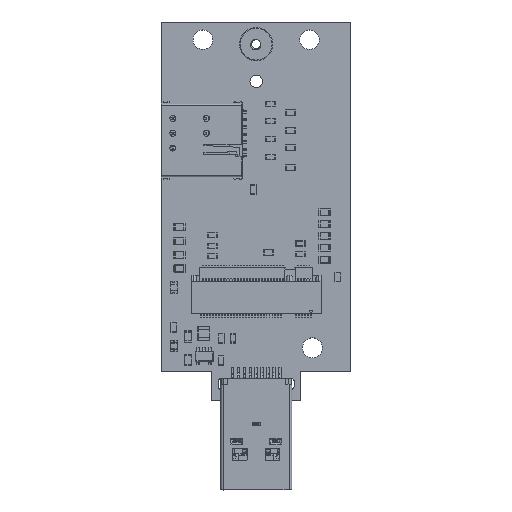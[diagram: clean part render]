
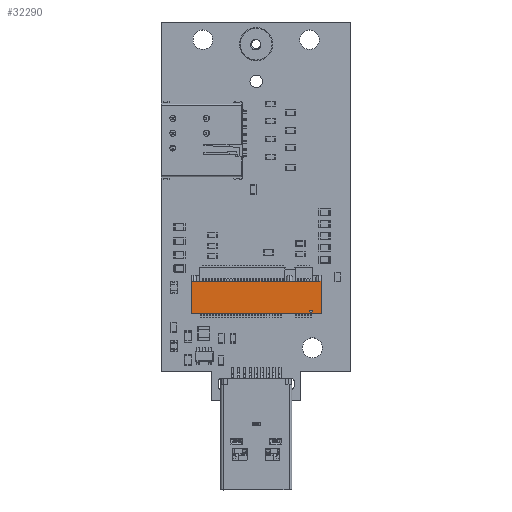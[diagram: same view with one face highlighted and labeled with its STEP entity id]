
A CAD part, top view. The second image highlights one B-rep face of the part: STEP entity #32290.
In plain terms, the highlighted planar face has unit normal (0, 0, 1).
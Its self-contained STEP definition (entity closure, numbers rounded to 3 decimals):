
#2663 = VERTEX_POINT('',#2664);
#2664 = CARTESIAN_POINT('',(26.975,20.2,
    4.085));
#2752 = VERTEX_POINT('',#2753);
#2753 = CARTESIAN_POINT('',(26.975,14.7,
    4.085));
#2759 = EDGE_CURVE('',#2752,#2663,#2760,.T.);
#2760 = LINE('',#2761,#2762);
#2761 = CARTESIAN_POINT('',(26.975,14.7,
    4.085));
#2762 = VECTOR('',#2763,1.);
#2763 = DIRECTION('',(0.,1.,0.));
#2773 = EDGE_CURVE('',#2663,#2774,#2776,.T.);
#2774 = VERTEX_POINT('',#2775);
#2775 = CARTESIAN_POINT('',(26.6,20.2,
    4.085));
#2776 = LINE('',#2777,#2778);
#2777 = CARTESIAN_POINT('',(26.975,20.2,
    4.085));
#2778 = VECTOR('',#2779,1.);
#2779 = DIRECTION('',(-1.,0.,0.));
#2840 = VERTEX_POINT('',#2841);
#2841 = CARTESIAN_POINT('',(21.7,20.2,
    4.085));
#2905 = EDGE_CURVE('',#2774,#2840,#2906,.T.);
#2906 = LINE('',#2907,#2908);
#2907 = CARTESIAN_POINT('',(26.6,20.2,
    4.085));
#2908 = VECTOR('',#2909,1.);
#2909 = DIRECTION('',(-1.,0.,0.));
#2938 = VERTEX_POINT('',#2939);
#2939 = CARTESIAN_POINT('',(21.6,20.2,
    4.085));
#2946 = EDGE_CURVE('',#2938,#2947,#2949,.T.);
#2947 = VERTEX_POINT('',#2948);
#2948 = CARTESIAN_POINT('',(5.45,20.2,4.085
    ));
#2949 = LINE('',#2950,#2951);
#2950 = CARTESIAN_POINT('',(21.6,20.2,
    4.085));
#2951 = VECTOR('',#2952,1.);
#2952 = DIRECTION('',(-1.,0.,0.));
#3055 = EDGE_CURVE('',#2840,#2938,#3056,.T.);
#3056 = LINE('',#3057,#3058);
#3057 = CARTESIAN_POINT('',(21.7,20.2,
    4.085));
#3058 = VECTOR('',#3059,1.);
#3059 = DIRECTION('',(-1.,0.,0.));
#15736 = VERTEX_POINT('',#15737);
#15737 = CARTESIAN_POINT('',(5.075,14.7,
    4.085));
#15743 = EDGE_CURVE('',#2752,#15736,#15744,.T.);
#15744 = LINE('',#15745,#15746);
#15745 = CARTESIAN_POINT('',(26.975,14.7,
    4.085));
#15746 = VECTOR('',#15747,1.);
#15747 = DIRECTION('',(-1.,0.,0.));
#21900 = VERTEX_POINT('',#21901);
#21901 = CARTESIAN_POINT('',(5.075,20.2,
    4.085));
#21910 = EDGE_CURVE('',#15736,#21900,#21911,.T.);
#21911 = LINE('',#21912,#21913);
#21912 = CARTESIAN_POINT('',(5.075,14.7,
    4.085));
#21913 = VECTOR('',#21914,1.);
#21914 = DIRECTION('',(0.,1.,0.));
#21996 = EDGE_CURVE('',#2947,#21900,#21997,.T.);
#21997 = LINE('',#21998,#21999);
#21998 = CARTESIAN_POINT('',(5.45,20.2,
    4.085));
#21999 = VECTOR('',#22000,1.);
#22000 = DIRECTION('',(-1.,0.,0.));
#32290 = ADVANCED_FACE('',(#32291,#32301),#32327,.T.);
#32291 = FACE_BOUND('',#32292,.F.);
#32292 = EDGE_LOOP('',(#32293,#32294,#32295,#32296,#32297,#32298,#32299,
    #32300));
#32293 = ORIENTED_EDGE('',*,*,#2905,.F.);
#32294 = ORIENTED_EDGE('',*,*,#2773,.F.);
#32295 = ORIENTED_EDGE('',*,*,#2759,.F.);
#32296 = ORIENTED_EDGE('',*,*,#15743,.T.);
#32297 = ORIENTED_EDGE('',*,*,#21910,.T.);
#32298 = ORIENTED_EDGE('',*,*,#21996,.F.);
#32299 = ORIENTED_EDGE('',*,*,#2946,.F.);
#32300 = ORIENTED_EDGE('',*,*,#3055,.F.);
#32301 = FACE_BOUND('',#32302,.F.);
#32302 = EDGE_LOOP('',(#32303,#32313,#32321));
#32303 = ORIENTED_EDGE('',*,*,#32304,.T.);
#32304 = EDGE_CURVE('',#32305,#32307,#32309,.T.);
#32305 = VERTEX_POINT('',#32306);
#32306 = CARTESIAN_POINT('',(25.275,14.71,
    4.085));
#32307 = VERTEX_POINT('',#32308);
#32308 = CARTESIAN_POINT('',(25.575,15.23,
    4.085));
#32309 = LINE('',#32310,#32311);
#32310 = CARTESIAN_POINT('',(25.275,14.71,
    4.085));
#32311 = VECTOR('',#32312,1.);
#32312 = DIRECTION('',(0.5,0.866,0.)
  );
#32313 = ORIENTED_EDGE('',*,*,#32314,.T.);
#32314 = EDGE_CURVE('',#32307,#32315,#32317,.T.);
#32315 = VERTEX_POINT('',#32316);
#32316 = CARTESIAN_POINT('',(24.975,15.23,
    4.085));
#32317 = LINE('',#32318,#32319);
#32318 = CARTESIAN_POINT('',(25.575,15.23,
    4.085));
#32319 = VECTOR('',#32320,1.);
#32320 = DIRECTION('',(-1.,0.,0.));
#32321 = ORIENTED_EDGE('',*,*,#32322,.T.);
#32322 = EDGE_CURVE('',#32315,#32305,#32323,.T.);
#32323 = LINE('',#32324,#32325);
#32324 = CARTESIAN_POINT('',(24.975,15.23,
    4.085));
#32325 = VECTOR('',#32326,1.);
#32326 = DIRECTION('',(0.5,-0.866,0.)
  );
#32327 = PLANE('',#32328);
#32328 = AXIS2_PLACEMENT_3D('',#32329,#32330,#32331);
#32329 = CARTESIAN_POINT('',(26.975,14.7,
    4.085));
#32330 = DIRECTION('',(0.,0.,1.));
#32331 = DIRECTION('',(0.,1.,0.));
